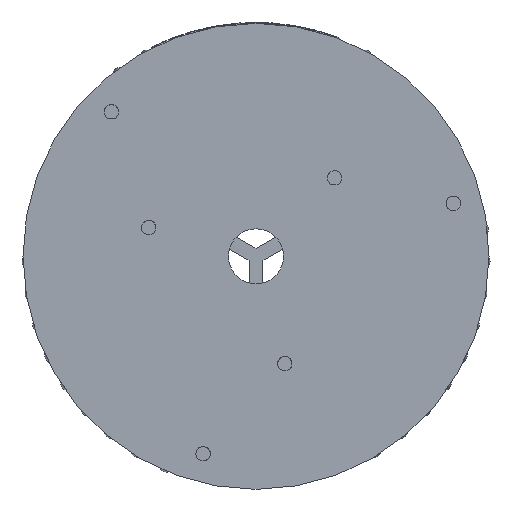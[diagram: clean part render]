
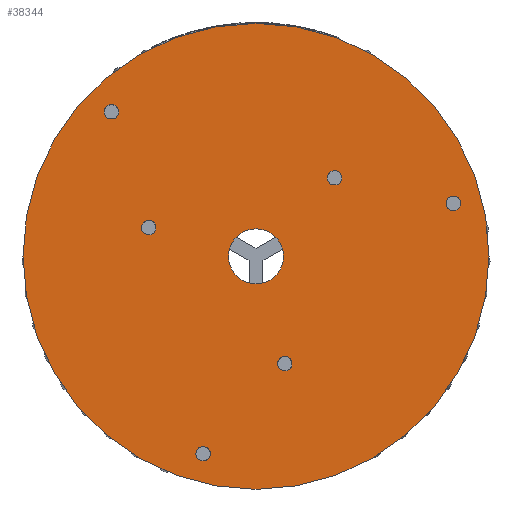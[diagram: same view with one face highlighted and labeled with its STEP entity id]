
A CAD part, front view. The second image highlights one B-rep face of the part: STEP entity #38344.
In plain terms, the highlighted planar face has unit normal (0, -1, 0).
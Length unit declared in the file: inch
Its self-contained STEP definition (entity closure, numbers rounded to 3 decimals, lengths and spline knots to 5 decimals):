
#550 = DIRECTION ( 'NONE',  ( 0., 1., 0. ) ) ;
#590 = VERTEX_POINT ( 'NONE', #47596 ) ;
#998 = EDGE_LOOP ( 'NONE', ( #8351 ) ) ;
#1032 = CARTESIAN_POINT ( 'NONE',  ( 0.44194, -0.41339, 0.44194 ) ) ;
#1096 = FACE_BOUND ( 'NONE', #43791, .T. ) ;
#1123 = AXIS2_PLACEMENT_3D ( 'NONE', #10336, #40957, #45416 ) ;
#1778 = CIRCLE ( 'NONE', #49994, 0.04035 ) ;
#2144 = DIRECTION ( 'NONE',  ( 0.866, 0., -0.5 ) ) ;
#3523 = ORIENTED_EDGE ( 'NONE', *, *, #56248, .T. ) ;
#4738 = EDGE_LOOP ( 'NONE', ( #8738 ) ) ;
#4964 = CARTESIAN_POINT ( 'NONE',  ( 0., -0.41339, 0. ) ) ;
#5382 = DIRECTION ( 'NONE',  ( 0., 0., 1. ) ) ;
#5612 = DIRECTION ( 'NONE',  ( 0., 1., 0. ) ) ;
#6022 = VERTEX_POINT ( 'NONE', #37718 ) ;
#6156 = DIRECTION ( 'NONE',  ( 0.866, 0., -0.5 ) ) ;
#7406 = CIRCLE ( 'NONE', #9762, 0.15492 ) ;
#7771 = AXIS2_PLACEMENT_3D ( 'NONE', #16728, #12879, #34874 ) ;
#8181 = VERTEX_POINT ( 'NONE', #27814 ) ;
#8351 = ORIENTED_EDGE ( 'NONE', *, *, #10244, .T. ) ;
#8738 = ORIENTED_EDGE ( 'NONE', *, *, #38110, .T. ) ;
#9376 = CIRCLE ( 'NONE', #1123, 0.04035 ) ;
#9762 = AXIS2_PLACEMENT_3D ( 'NONE', #4964, #14196, #49054 ) ;
#10020 = FACE_BOUND ( 'NONE', #51985, .T. ) ;
#10244 = EDGE_CURVE ( 'NONE', #20027, #20027, #18225, .T. ) ;
#10245 = CARTESIAN_POINT ( 'NONE',  ( 0., -0.41339, -0.15492 ) ) ;
#10336 = CARTESIAN_POINT ( 'NONE',  ( 0.16176, -0.41339, -0.6037 ) ) ;
#12750 = FACE_BOUND ( 'NONE', #36072, .T. ) ;
#12879 = DIRECTION ( 'NONE',  ( 0., -1., 0. ) ) ;
#13768 = VERTEX_POINT ( 'NONE', #10245 ) ;
#14196 = DIRECTION ( 'NONE',  ( 0., -1., 0. ) ) ;
#14531 = AXIS2_PLACEMENT_3D ( 'NONE', #15715, #32953, #28576 ) ;
#14809 = FACE_BOUND ( 'NONE', #4738, .T. ) ;
#15715 = CARTESIAN_POINT ( 'NONE',  ( 0., -0.41339, 0. ) ) ;
#16068 = DIRECTION ( 'NONE',  ( -0.866, 0., -0.5 ) ) ;
#16728 = CARTESIAN_POINT ( 'NONE',  ( 0., -0.41339, 0. ) ) ;
#17501 = EDGE_CURVE ( 'NONE', #13768, #13768, #7406, .T. ) ;
#17704 = ORIENTED_EDGE ( 'NONE', *, *, #51478, .T. ) ;
#18225 = CIRCLE ( 'NONE', #46816, 0.04035 ) ;
#18921 = CIRCLE ( 'NONE', #46116, 0.04035 ) ;
#20027 = VERTEX_POINT ( 'NONE', #44574 ) ;
#20531 = VERTEX_POINT ( 'NONE', #21515 ) ;
#21515 = CARTESIAN_POINT ( 'NONE',  ( 0., -0.41339, -1.31102 ) ) ;
#21705 = CARTESIAN_POINT ( 'NONE',  ( 1.07587, -0.41339, 0.27746 ) ) ;
#22667 = CARTESIAN_POINT ( 'NONE',  ( -0.29764, -0.41339, -1.11081 ) ) ;
#23703 = CARTESIAN_POINT ( 'NONE',  ( -0.81317, -0.41339, 0.81317 ) ) ;
#24197 = DIRECTION ( 'NONE',  ( 0., 1., 0. ) ) ;
#27814 = CARTESIAN_POINT ( 'NONE',  ( -0.6037, -0.41339, 0.20212 ) ) ;
#28576 = DIRECTION ( 'NONE',  ( 0., 0., -1. ) ) ;
#29222 = EDGE_CURVE ( 'NONE', #55504, #55504, #45828, .T. ) ;
#30006 = VERTEX_POINT ( 'NONE', #55374 ) ;
#30101 = EDGE_CURVE ( 'NONE', #20531, #20531, #54037, .T. ) ;
#31443 = DIRECTION ( 'NONE',  ( 0., 1., 0. ) ) ;
#31588 = ORIENTED_EDGE ( 'NONE', *, *, #30101, .T. ) ;
#31793 = DIRECTION ( 'NONE',  ( 0., 0., 1. ) ) ;
#32269 = ORIENTED_EDGE ( 'NONE', *, *, #29222, .T. ) ;
#32953 = DIRECTION ( 'NONE',  ( 0., -1., 0. ) ) ;
#34874 = DIRECTION ( 'NONE',  ( 0., 0., -1. ) ) ;
#36072 = EDGE_LOOP ( 'NONE', ( #17704 ) ) ;
#36607 = CIRCLE ( 'NONE', #38768, 0.04035 ) ;
#36716 = FACE_BOUND ( 'NONE', #998, .T. ) ;
#37718 = CARTESIAN_POINT ( 'NONE',  ( 0.12681, -0.41339, -0.62388 ) ) ;
#38110 = EDGE_CURVE ( 'NONE', #8181, #8181, #18921, .T. ) ;
#38344 = ADVANCED_FACE ( 'NONE', ( #40831, #1096, #12750, #45673, #10020, #36716, #14809, #51137 ), #54844, .T. ) ;
#38768 = AXIS2_PLACEMENT_3D ( 'NONE', #23703, #50272, #2144 ) ;
#39339 = AXIS2_PLACEMENT_3D ( 'NONE', #50573, #24197, #16068 ) ;
#40831 = FACE_BOUND ( 'NONE', #47869, .T. ) ;
#40957 = DIRECTION ( 'NONE',  ( 0., 1., 0. ) ) ;
#43732 = EDGE_LOOP ( 'NONE', ( #31588 ) ) ;
#43791 = EDGE_LOOP ( 'NONE', ( #53143 ) ) ;
#44030 = EDGE_LOOP ( 'NONE', ( #3523 ) ) ;
#44574 = CARTESIAN_POINT ( 'NONE',  ( -0.29764, -0.41339, -1.07046 ) ) ;
#44729 = CARTESIAN_POINT ( 'NONE',  ( -0.6037, -0.41339, 0.16176 ) ) ;
#45416 = DIRECTION ( 'NONE',  ( -0.866, 0., -0.5 ) ) ;
#45673 = FACE_BOUND ( 'NONE', #44030, .T. ) ;
#45828 = CIRCLE ( 'NONE', #39339, 0.04035 ) ;
#46116 = AXIS2_PLACEMENT_3D ( 'NONE', #44729, #31443, #5382 ) ;
#46816 = AXIS2_PLACEMENT_3D ( 'NONE', #22667, #550, #31793 ) ;
#47596 = CARTESIAN_POINT ( 'NONE',  ( -0.77822, -0.41339, 0.793 ) ) ;
#47869 = EDGE_LOOP ( 'NONE', ( #53797 ) ) ;
#49054 = DIRECTION ( 'NONE',  ( 0., 0., -1. ) ) ;
#49994 = AXIS2_PLACEMENT_3D ( 'NONE', #1032, #5612, #6156 ) ;
#50272 = DIRECTION ( 'NONE',  ( 0., 1., 0. ) ) ;
#50573 = CARTESIAN_POINT ( 'NONE',  ( 1.11081, -0.41339, 0.29764 ) ) ;
#51137 = FACE_OUTER_BOUND ( 'NONE', #43732, .T. ) ;
#51478 = EDGE_CURVE ( 'NONE', #6022, #6022, #9376, .T. ) ;
#51813 = EDGE_CURVE ( 'NONE', #30006, #30006, #1778, .T. ) ;
#51985 = EDGE_LOOP ( 'NONE', ( #32269 ) ) ;
#53143 = ORIENTED_EDGE ( 'NONE', *, *, #51813, .T. ) ;
#53797 = ORIENTED_EDGE ( 'NONE', *, *, #17501, .F. ) ;
#54037 = CIRCLE ( 'NONE', #7771, 1.31102 ) ;
#54844 = PLANE ( 'NONE',  #14531 ) ;
#55374 = CARTESIAN_POINT ( 'NONE',  ( 0.47689, -0.41339, 0.42176 ) ) ;
#55504 = VERTEX_POINT ( 'NONE', #21705 ) ;
#56248 = EDGE_CURVE ( 'NONE', #590, #590, #36607, .T. ) ;
